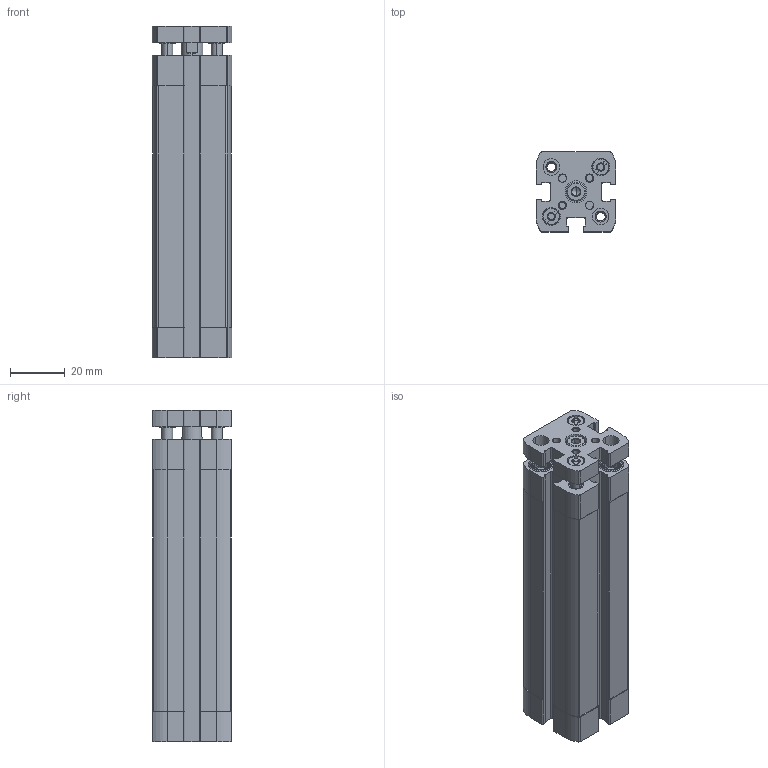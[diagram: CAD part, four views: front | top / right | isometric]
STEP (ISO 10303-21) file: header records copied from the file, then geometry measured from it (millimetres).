
FILE_DESCRIPTION (( 'STEP AP203' ), '1' );
FILE_NAME ('CCNG16-75.STEP', '2017-04-13T15:03:01', ( '' ), ( '' ), 'SwSTEP 2.0', 'SolidWorks 2016', '' );
FILE_SCHEMA (( 'CONFIG_CONTROL_DESIGN' ));
Length unit declared in the file: millimetre
Products named in the file (3): CCNG-16-75--(Z); CCNG-16-75---(KS); CCNG16-75
Assembly tree (2 placements, depth 2):
  CCNG16-75
    CCNG-16-75--(Z)
    CCNG-16-75---(KS)
Bounding box: 29 x 29 x 120.7 mm (x, y, z)
Volume: 67202.6 mm3; surface area: 37582.4 mm2
Topology: 2 solids, 6 shells, 545 faces, 1416 edges, 923 vertices
Faces by surface type: plane 257, cylinder 214, cone 70, bspline 4
Entity records: 17293 total; most frequent: CARTESIAN_POINT 3363, DIRECTION 2906, ORIENTED_EDGE 2828, EDGE_CURVE 1414, AXIS2_PLACEMENT_3D 1078, VERTEX_POINT 923, LINE 750, VECTOR 750
